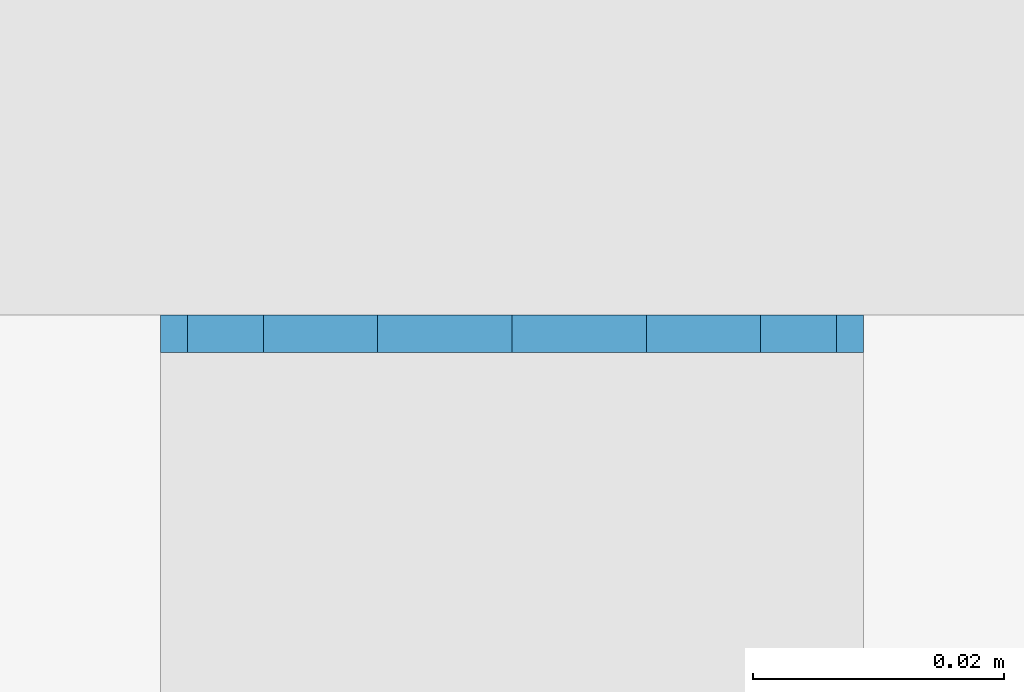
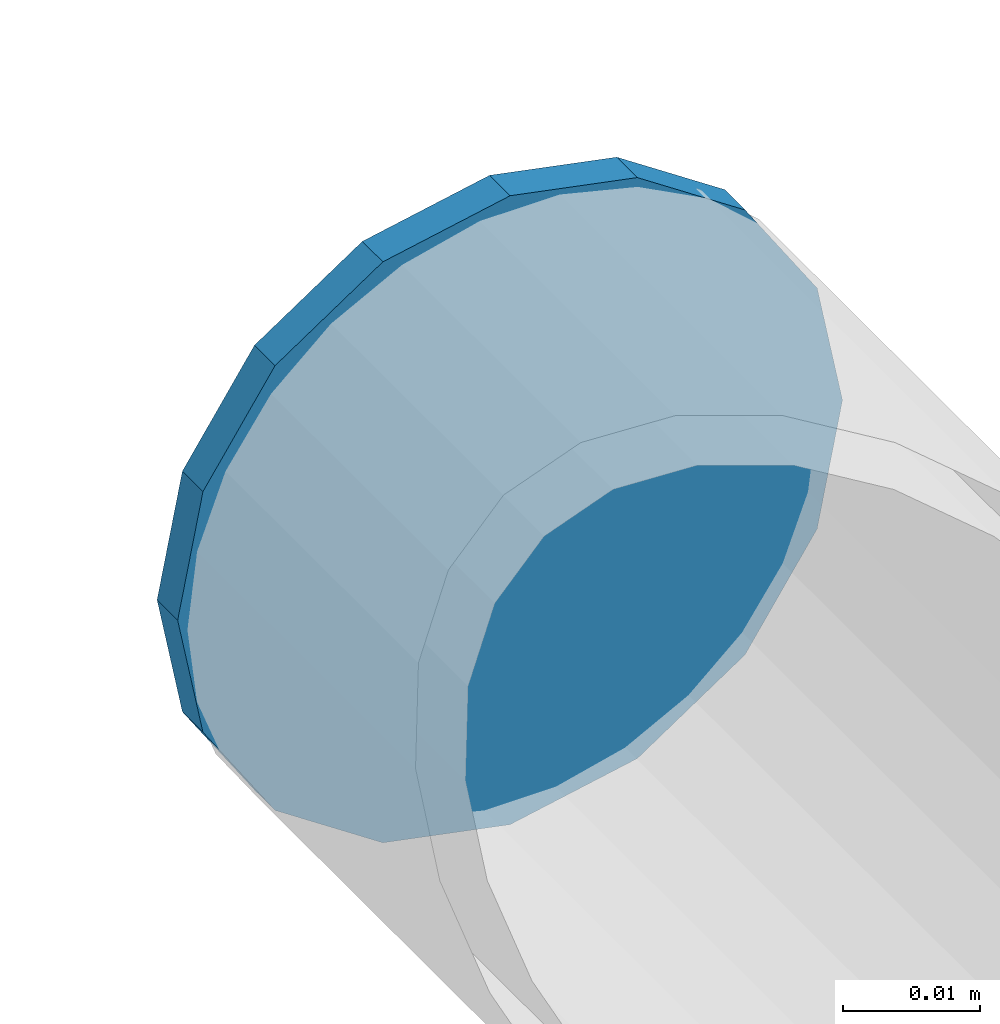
# One storey, part 58 of 230: 1 beam.
"""IFC4X3_ADD2 building model written with IfcOpenShell, lengths in millimetres."""

from ifc_helpers import new_model, si_unit, direction, frame, origin_with_axes, place, context, subcontext, project, spatial, indexed_curve, outline, extrude, material, element, save


model = new_model("IFC4X3_ADD2")

# Units and contexts
model_context = context("Model", 3, precision=1e-05, world=origin_with_axes(), true_north=direction((0.0, 1.0)))
body_context = subcontext(model_context, "Body", "Model", "MODEL_VIEW")
ifc_project = project(units=[si_unit("LENGTHUNIT", "METRE", prefix="MILLI"), si_unit("AREAUNIT", "SQUARE_METRE"), si_unit("VOLUMEUNIT", "CUBIC_METRE"), si_unit("PLANEANGLEUNIT", "RADIAN"), si_unit("TIMEUNIT", "SECOND"), si_unit("MASSUNIT", "GRAM")], contexts=[model_context])

# Site, building, storey
site_placement = place(None, origin_with_axes())
site = spatial("IfcSite", under=ifc_project, at=site_placement, Name="Site", CompositionType="ELEMENT")
building_placement = place(site_placement, origin_with_axes())
building = spatial("IfcBuilding", under=site, at=building_placement, Name="IFC Building Story")
storey_placement = place(building_placement, origin_with_axes())
storey = spatial("IfcBuildingStorey", under=building, at=storey_placement, Name="ETAGE 00 (0)", Elevation=0.0)

# Beam
ifc_material = material(Name="STEEL/Accessory 22919")
beam_placement = place(storey_placement, frame((33401.1883474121, 26549.99896240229, 859.9999999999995), z_axis=(0.0, -1.0, 0.0), x_axis=(-0.5555702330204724, 0.0, 0.8314696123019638)))
element("IfcBeam", 1, at=beam_placement, inside=storey, material=ifc_material, Name="TA4", ObjectType="D56", context=body_context, shape_type="SweptSolid", body=[
    extrude(outline(indexed_curve([(23.28114914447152, 15.55596652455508), (27.46198785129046, 5.462529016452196), (27.46198785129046, -5.462529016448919), (23.28114914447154, -15.55596652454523), (15.55596652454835, -23.28114914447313), (5.462529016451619, -27.46198785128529), (-5.462529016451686, -27.46198785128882), (-15.55596652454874, -23.28114914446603), (-23.2811491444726, -15.55596652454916), (-27.46198785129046, -5.462529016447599), (-27.46198785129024, 5.462529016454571), (-23.28114914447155, 15.55596652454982), (-15.55596652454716, 23.28114914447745), (-5.462529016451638, 27.46198785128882), (5.462529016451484, 27.46198785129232), (15.55596652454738, 23.28114914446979), (23.28114914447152, 15.55596652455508)])), origin_with_axes(), (0.0, 0.0, 1.0), 2.999999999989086),
])

save(model, "model.ifc")
